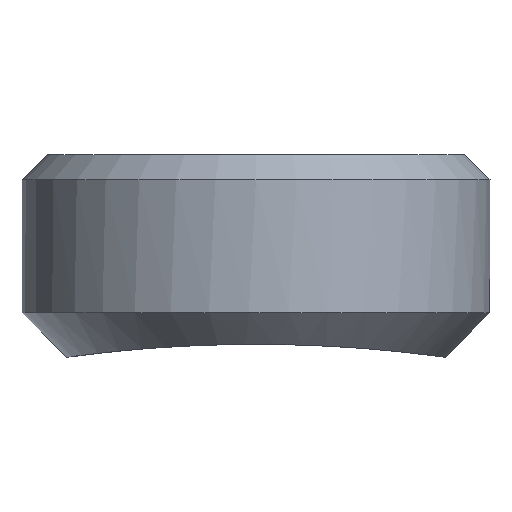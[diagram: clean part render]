
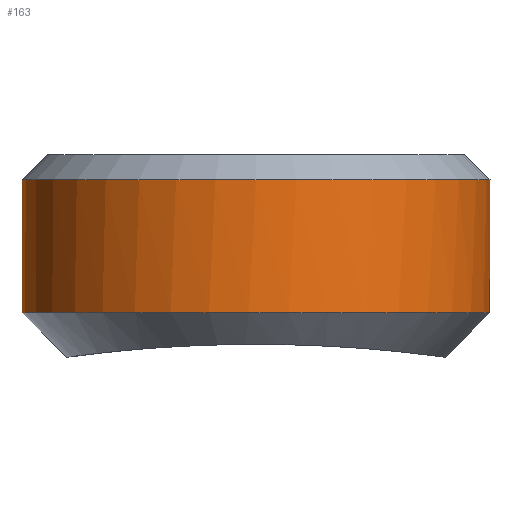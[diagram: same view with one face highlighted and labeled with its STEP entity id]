
A CAD part, front view. The second image highlights one B-rep face of the part: STEP entity #163.
In plain terms, the highlighted cylindrical face has radius 18.5 mm (diameter 37 mm), a full revolution.
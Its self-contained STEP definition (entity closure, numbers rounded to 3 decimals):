
#14=CYLINDRICAL_SURFACE('',#181,18.5);
#33=ORIENTED_EDGE('',*,*,#53,.T.);
#34=ORIENTED_EDGE('',*,*,#50,.F.);
#50=EDGE_CURVE('',#60,#60,#67,.T.);
#53=EDGE_CURVE('',#63,#63,#69,.T.);
#60=VERTEX_POINT('',#251);
#63=VERTEX_POINT('',#281);
#67=CIRCLE('',#178,18.5);
#69=CIRCLE('',#182,18.5);
#77=EDGE_LOOP('',(#33));
#78=EDGE_LOOP('',(#34));
#91=FACE_BOUND('',#77,.T.);
#92=FACE_BOUND('',#78,.T.);
#163=ADVANCED_FACE('',(#91,#92),#14,.T.);
#178=AXIS2_PLACEMENT_3D('',#250,#200,#201);
#181=AXIS2_PLACEMENT_3D('',#279,#206,#207);
#182=AXIS2_PLACEMENT_3D('',#280,#208,#209);
#200=DIRECTION('',(0.,0.,-1.));
#201=DIRECTION('',(-1.,0.,0.));
#206=DIRECTION('',(0.,0.,-1.));
#207=DIRECTION('',(-1.,0.,0.));
#208=DIRECTION('',(0.,0.,-1.));
#209=DIRECTION('',(-1.,0.,0.));
#250=CARTESIAN_POINT('',(0.,0.,11.5));
#251=CARTESIAN_POINT('',(-18.5,0.,11.5));
#279=CARTESIAN_POINT('',(0.,0.,0.));
#280=CARTESIAN_POINT('',(0.,0.,22.));
#281=CARTESIAN_POINT('',(-18.5,0.,22.));
